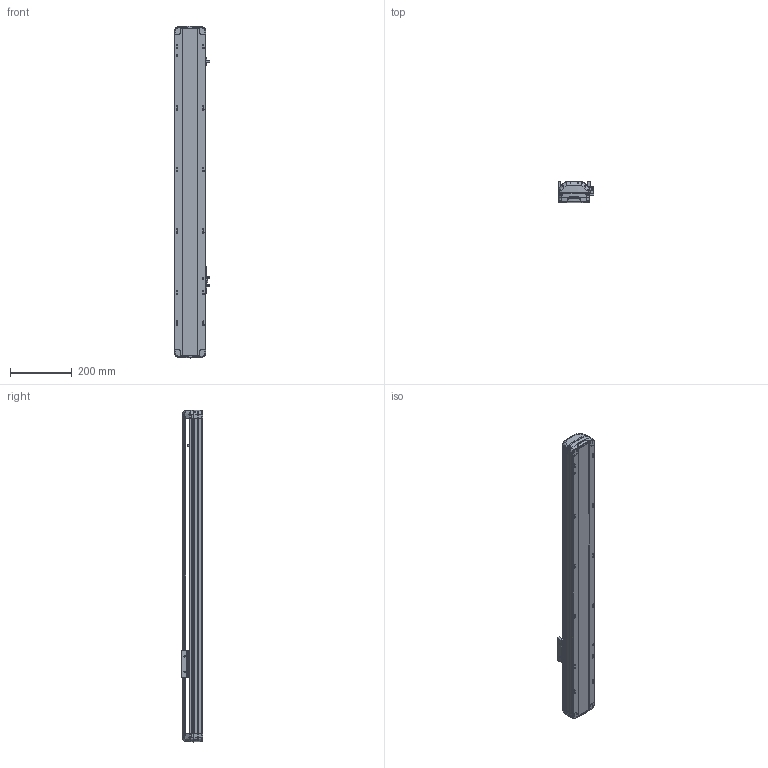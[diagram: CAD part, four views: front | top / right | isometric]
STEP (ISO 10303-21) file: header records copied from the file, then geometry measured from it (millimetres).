
FILE_DESCRIPTION (( 'STEP AP214' ), '1' );
FILE_NAME ('RTH10-XX-700-B-M10-C4.STEP', '2025-10-25T05:15:40', ( 'Microsoft' ), ( 'Microsoft' ), 'SwSTEP 2.0', 'SolidWorks 2018', '' );
FILE_SCHEMA (( 'AUTOMOTIVE_DESIGN' ));
Length unit declared in the file: millimetre
Products named in the file (7): N_OMRON EE-SX672 传感器^RTH10-XX-XX-B-M10-C4; N_RTH12-B-011P-臏倰第菁釱^RTH10-XX-XX-B-M10-C4; N_RTH12-GY-001P^RTH10-XX-XX-B-M10-C4; N_RTH13-L-012覜茼え俋离^RTH10-XX-XX-B-M10-C4; N_RTH12-B-007P-奻裔^RTH10-XX-XX-B-M10-C4; N_RTH12-GY-004-賑釱^RTH10-XX-XX-B-M10-C4; RTH10-XX-700-B-M10-C4
Assembly tree (9 placements, depth 2):
  RTH10-XX-700-B-M10-C4
    N_RTH12-B-011P-臏倰第菁釱^RTH10-XX-XX-B-M10-C4
    N_RTH13-L-012覜茼え俋离^RTH10-XX-XX-B-M10-C4
    N_OMRON EE-SX672 传感器^RTH10-XX-XX-B-M10-C4  x3
    N_RTH12-B-007P-奻裔^RTH10-XX-XX-B-M10-C4
    N_RTH12-GY-004-賑釱^RTH10-XX-XX-B-M10-C4
    N_RTH12-GY-001P^RTH10-XX-XX-B-M10-C4  x2
Bounding box: 116.5 x 70 x 1079.61 mm (x, y, z)
Volume: 4053949.1 mm3; surface area: 654793.6 mm2
Topology: 7 solids, 11 shells, 2200 faces, 6166 edges, 4036 vertices
Faces by surface type: plane 1053, bspline 712, cylinder 415, cone 16, torus 4
Entity records: 49526 total; most frequent: CARTESIAN_POINT 21578, ORIENTED_EDGE 6460, DIRECTION 4534, EDGE_CURVE 3236, VERTEX_POINT 2123, VECTOR 1668, LINE 1668, AXIS2_PLACEMENT_3D 1433
